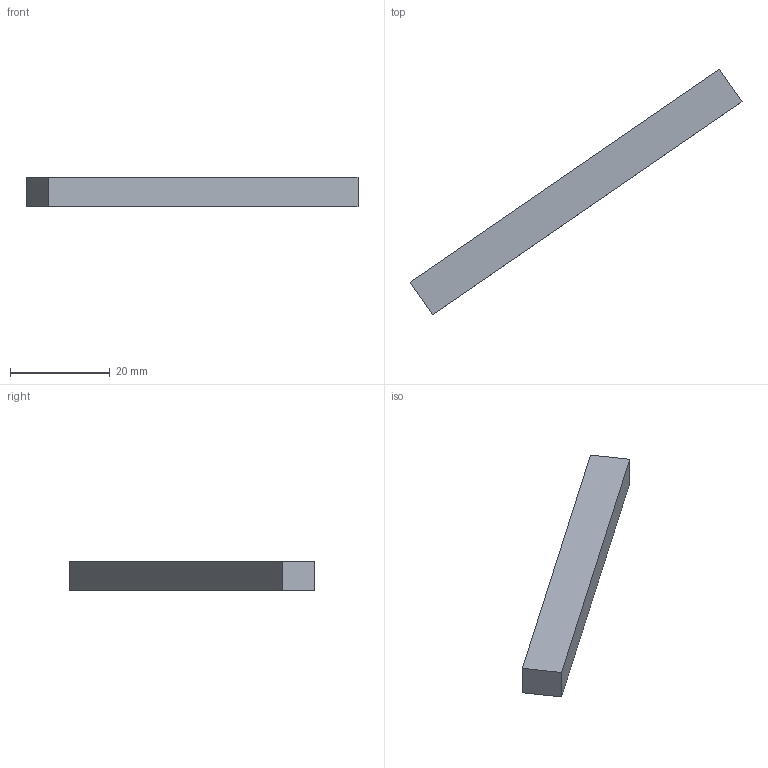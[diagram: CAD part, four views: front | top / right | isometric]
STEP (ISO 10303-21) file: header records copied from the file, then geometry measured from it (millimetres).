
FILE_DESCRIPTION(('Open CASCADE Model'),'2;1');
FILE_NAME('Open CASCADE Shape Model','2026-10-04T02:31:34',('Author'),( 'Open CASCADE'),'Open CASCADE STEP processor 8.0','Open CASCADE 8.0' ,'Unknown');
FILE_SCHEMA(('AUTOMOTIVE_DESIGN { 1 0 10303 214 1 1 1 1 }'));
Length unit declared in the file: millimetre
Products named in the file (1): Open CASCADE STEP translator 8.0 28
Bounding box: 66.54 x 49.29 x 6 mm (x, y, z)
Volume: 3613.5 mm3; surface area: 2203.9 mm2
Topology: 1 solids, 1 shells, 6 faces, 12 edges, 8 vertices
Faces by surface type: plane 6
Entity records: 322 total; most frequent: CARTESIAN_POINT 51, DIRECTION 50, LINE 36, VECTOR 36, ORIENTED_EDGE 24, PCURVE 24, DEFINITIONAL_REPRESENTATION 24, EDGE_CURVE 12
